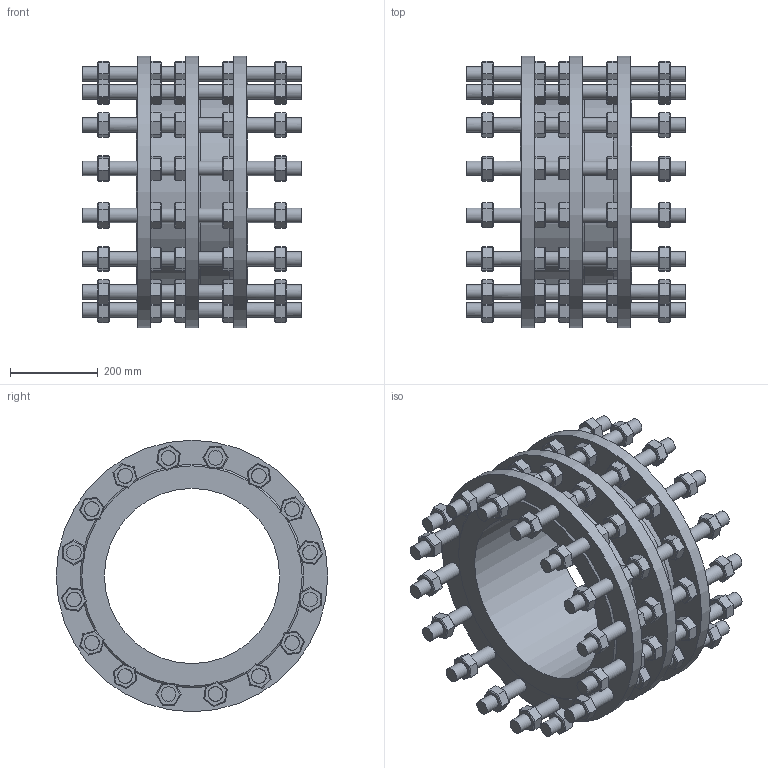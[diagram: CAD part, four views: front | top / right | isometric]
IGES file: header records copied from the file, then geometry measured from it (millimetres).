
Start section: SolidWorks IGES file using analytic representation for surfaces
Global section: file name: X:\AR\CV\873\873-0400-00-741000\873040000741000.IGS; native system: SolidWorks 2020; preprocessor: SolidWorks 2020; author: m.lucatello; date: 211105.103910; units: millimetre
Bounding box: 500 x 620 x 620 mm (x, y, z)
Surface area: 3056164.2 mm2 (no closed solid volume)
Topology: 0 solids, 0 shells, 1955 faces, 8030 edges, 7716 vertices
Faces by surface type: bspline 1641, revolution 314
